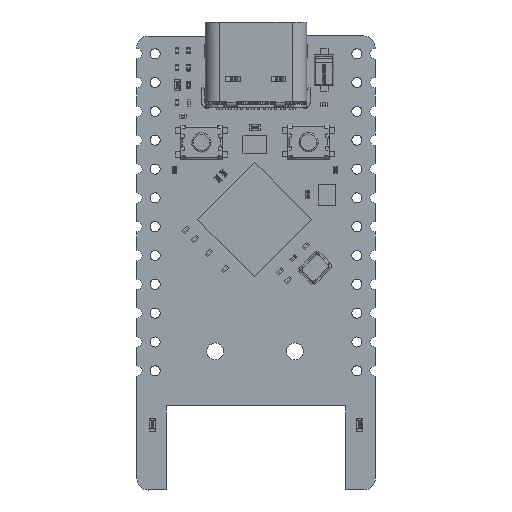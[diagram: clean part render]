
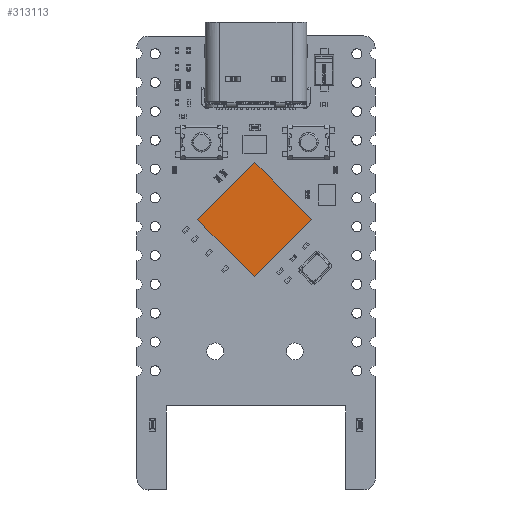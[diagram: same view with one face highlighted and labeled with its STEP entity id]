
A CAD part, top view. The second image highlights one B-rep face of the part: STEP entity #313113.
In plain terms, the highlighted planar face has unit normal (0, 0, 1).
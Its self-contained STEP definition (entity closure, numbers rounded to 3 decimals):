
#312799 = VERTEX_POINT('',#312800);
#312800 = CARTESIAN_POINT('',(-5.029,-0.009,
    0.98));
#312807 = PLANE('',#312808);
#312808 = AXIS2_PLACEMENT_3D('',#312809,#312810,#312811);
#312809 = CARTESIAN_POINT('',(-5.029,-0.009,0.)
  );
#312810 = DIRECTION('',(0.707,0.707,0.));
#312811 = DIRECTION('',(0.707,-0.707,0.));
#312819 = PLANE('',#312820);
#312820 = AXIS2_PLACEMENT_3D('',#312821,#312822,#312823);
#312821 = CARTESIAN_POINT('',(0.009,5.029,0.));
#312822 = DIRECTION('',(0.707,-0.707,0.));
#312823 = DIRECTION('',(-0.707,-0.707,0.));
#312831 = EDGE_CURVE('',#312799,#312832,#312834,.T.);
#312832 = VERTEX_POINT('',#312833);
#312833 = CARTESIAN_POINT('',(-0.009,-5.029,
    0.98));
#312834 = SURFACE_CURVE('',#312835,(#312839,#312846),.PCURVE_S1.);
#312835 = LINE('',#312836,#312837);
#312836 = CARTESIAN_POINT('',(-5.029,-0.009,
    0.98));
#312837 = VECTOR('',#312838,1.);
#312838 = DIRECTION('',(0.707,-0.707,0.));
#312839 = PCURVE('',#312807,#312840);
#312840 = DEFINITIONAL_REPRESENTATION('',(#312841),#312845);
#312841 = LINE('',#312842,#312843);
#312842 = CARTESIAN_POINT('',(0.,-0.98));
#312843 = VECTOR('',#312844,1.);
#312844 = DIRECTION('',(1.,0.));
#312845 = ( GEOMETRIC_REPRESENTATION_CONTEXT(2) 
PARAMETRIC_REPRESENTATION_CONTEXT() REPRESENTATION_CONTEXT('2D SPACE',''
  ) );
#312846 = PCURVE('',#312847,#312852);
#312847 = PLANE('',#312848);
#312848 = AXIS2_PLACEMENT_3D('',#312849,#312850,#312851);
#312849 = CARTESIAN_POINT('',(-5.029,-0.009,
    0.98));
#312850 = DIRECTION('',(0.,0.,-1.));
#312851 = DIRECTION('',(-1.,0.,0.));
#312852 = DEFINITIONAL_REPRESENTATION('',(#312853),#312857);
#312853 = LINE('',#312854,#312855);
#312854 = CARTESIAN_POINT('',(0.,0.));
#312855 = VECTOR('',#312856,1.);
#312856 = DIRECTION('',(-0.707,-0.707));
#312857 = ( GEOMETRIC_REPRESENTATION_CONTEXT(2) 
PARAMETRIC_REPRESENTATION_CONTEXT() REPRESENTATION_CONTEXT('2D SPACE',''
  ) );
#312875 = PLANE('',#312876);
#312876 = AXIS2_PLACEMENT_3D('',#312877,#312878,#312879);
#312877 = CARTESIAN_POINT('',(-0.009,-5.029,0.)
  );
#312878 = DIRECTION('',(-0.707,0.707,0.));
#312879 = DIRECTION('',(0.707,0.707,0.));
#312917 = EDGE_CURVE('',#312832,#312918,#312920,.T.);
#312918 = VERTEX_POINT('',#312919);
#312919 = CARTESIAN_POINT('',(5.029,0.009,0.98)
  );
#312920 = SURFACE_CURVE('',#312921,(#312925,#312932),.PCURVE_S1.);
#312921 = LINE('',#312922,#312923);
#312922 = CARTESIAN_POINT('',(-0.009,-5.029,
    0.98));
#312923 = VECTOR('',#312924,1.);
#312924 = DIRECTION('',(0.707,0.707,0.));
#312925 = PCURVE('',#312875,#312926);
#312926 = DEFINITIONAL_REPRESENTATION('',(#312927),#312931);
#312927 = LINE('',#312928,#312929);
#312928 = CARTESIAN_POINT('',(0.,-0.98));
#312929 = VECTOR('',#312930,1.);
#312930 = DIRECTION('',(1.,0.));
#312931 = ( GEOMETRIC_REPRESENTATION_CONTEXT(2) 
PARAMETRIC_REPRESENTATION_CONTEXT() REPRESENTATION_CONTEXT('2D SPACE',''
  ) );
#312932 = PCURVE('',#312847,#312933);
#312933 = DEFINITIONAL_REPRESENTATION('',(#312934),#312938);
#312934 = LINE('',#312935,#312936);
#312935 = CARTESIAN_POINT('',(-5.02,-5.02));
#312936 = VECTOR('',#312937,1.);
#312937 = DIRECTION('',(-0.707,0.707));
#312938 = ( GEOMETRIC_REPRESENTATION_CONTEXT(2) 
PARAMETRIC_REPRESENTATION_CONTEXT() REPRESENTATION_CONTEXT('2D SPACE',''
  ) );
#312956 = PLANE('',#312957);
#312957 = AXIS2_PLACEMENT_3D('',#312958,#312959,#312960);
#312958 = CARTESIAN_POINT('',(5.029,0.009,0.));
#312959 = DIRECTION('',(-0.707,-0.707,0.));
#312960 = DIRECTION('',(-0.707,0.707,0.));
#312993 = EDGE_CURVE('',#312918,#312994,#312996,.T.);
#312994 = VERTEX_POINT('',#312995);
#312995 = CARTESIAN_POINT('',(0.009,5.029,0.98)
  );
#312996 = SURFACE_CURVE('',#312997,(#313001,#313008),.PCURVE_S1.);
#312997 = LINE('',#312998,#312999);
#312998 = CARTESIAN_POINT('',(5.029,0.009,0.98)
  );
#312999 = VECTOR('',#313000,1.);
#313000 = DIRECTION('',(-0.707,0.707,0.));
#313001 = PCURVE('',#312956,#313002);
#313002 = DEFINITIONAL_REPRESENTATION('',(#313003),#313007);
#313003 = LINE('',#313004,#313005);
#313004 = CARTESIAN_POINT('',(0.,-0.98));
#313005 = VECTOR('',#313006,1.);
#313006 = DIRECTION('',(1.,0.));
#313007 = ( GEOMETRIC_REPRESENTATION_CONTEXT(2) 
PARAMETRIC_REPRESENTATION_CONTEXT() REPRESENTATION_CONTEXT('2D SPACE',''
  ) );
#313008 = PCURVE('',#312847,#313009);
#313009 = DEFINITIONAL_REPRESENTATION('',(#313010),#313014);
#313010 = LINE('',#313011,#313012);
#313011 = CARTESIAN_POINT('',(-10.059,0.018));
#313012 = VECTOR('',#313013,1.);
#313013 = DIRECTION('',(0.707,0.707));
#313014 = ( GEOMETRIC_REPRESENTATION_CONTEXT(2) 
PARAMETRIC_REPRESENTATION_CONTEXT() REPRESENTATION_CONTEXT('2D SPACE',''
  ) );
#313064 = EDGE_CURVE('',#312994,#312799,#313065,.T.);
#313065 = SURFACE_CURVE('',#313066,(#313070,#313077),.PCURVE_S1.);
#313066 = LINE('',#313067,#313068);
#313067 = CARTESIAN_POINT('',(0.009,5.029,0.98)
  );
#313068 = VECTOR('',#313069,1.);
#313069 = DIRECTION('',(-0.707,-0.707,0.));
#313070 = PCURVE('',#312819,#313071);
#313071 = DEFINITIONAL_REPRESENTATION('',(#313072),#313076);
#313072 = LINE('',#313073,#313074);
#313073 = CARTESIAN_POINT('',(0.,-0.98));
#313074 = VECTOR('',#313075,1.);
#313075 = DIRECTION('',(1.,0.));
#313076 = ( GEOMETRIC_REPRESENTATION_CONTEXT(2) 
PARAMETRIC_REPRESENTATION_CONTEXT() REPRESENTATION_CONTEXT('2D SPACE',''
  ) );
#313077 = PCURVE('',#312847,#313078);
#313078 = DEFINITIONAL_REPRESENTATION('',(#313079),#313083);
#313079 = LINE('',#313080,#313081);
#313080 = CARTESIAN_POINT('',(-5.038,5.038));
#313081 = VECTOR('',#313082,1.);
#313082 = DIRECTION('',(0.707,-0.707));
#313083 = ( GEOMETRIC_REPRESENTATION_CONTEXT(2) 
PARAMETRIC_REPRESENTATION_CONTEXT() REPRESENTATION_CONTEXT('2D SPACE',''
  ) );
#313113 = ADVANCED_FACE('',(#313114),#312847,.F.);
#313114 = FACE_BOUND('',#313115,.T.);
#313115 = EDGE_LOOP('',(#313116,#313117,#313118,#313119));
#313116 = ORIENTED_EDGE('',*,*,#312831,.T.);
#313117 = ORIENTED_EDGE('',*,*,#312917,.T.);
#313118 = ORIENTED_EDGE('',*,*,#312993,.T.);
#313119 = ORIENTED_EDGE('',*,*,#313064,.T.);
